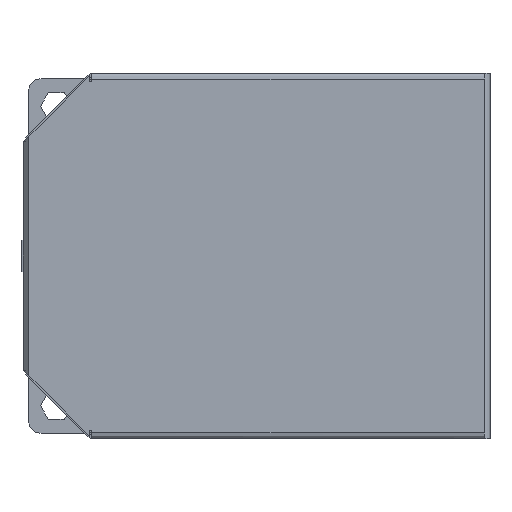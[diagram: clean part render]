
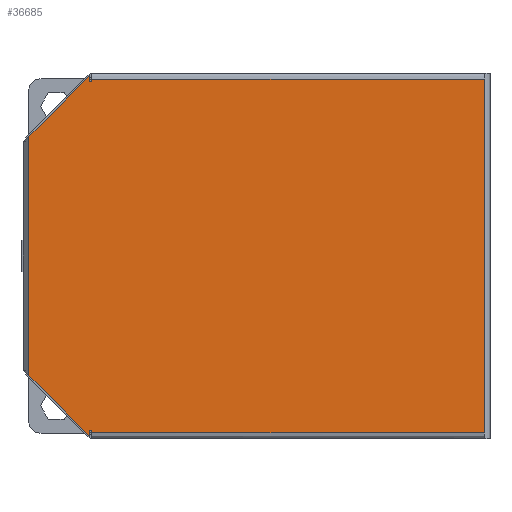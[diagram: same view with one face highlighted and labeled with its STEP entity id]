
A CAD part, front view. The second image highlights one B-rep face of the part: STEP entity #36685.
In plain terms, the highlighted planar face has unit normal (0, -1, 0).
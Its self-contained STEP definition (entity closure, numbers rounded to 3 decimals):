
#310 = EDGE_CURVE ( 'NONE', #28513, #89064, #72159, .T. ) ;
#486 = VERTEX_POINT ( 'NONE', #87829 ) ;
#500 = ORIENTED_EDGE ( 'NONE', *, *, #92525, .F. ) ;
#655 = CARTESIAN_POINT ( 'NONE',  ( 62., -0.8, 56.7 ) ) ;
#1023 = CARTESIAN_POINT ( 'NONE',  ( 71.9, -0.8, 47.7 ) ) ;
#1066 = CARTESIAN_POINT ( 'NONE',  ( 62., -0.8, 57.6 ) ) ;
#2098 = ORIENTED_EDGE ( 'NONE', *, *, #310, .T. ) ;
#2113 = VECTOR ( 'NONE', #28849, 1000. ) ;
#3018 = CARTESIAN_POINT ( 'NONE',  ( 62., -0.8, 57.6 ) ) ;
#4178 = CARTESIAN_POINT ( 'NONE',  ( 31., -0.8, 88.6 ) ) ;
#7187 = CARTESIAN_POINT ( 'NONE',  ( 0., -0.8, 56.3 ) ) ;
#7256 = VECTOR ( 'NONE', #60491, 1000. ) ;
#7549 = DIRECTION ( 'NONE',  ( -1., 0., 0. ) ) ;
#9428 = VERTEX_POINT ( 'NONE', #66450 ) ;
#12902 = CARTESIAN_POINT ( 'NONE',  ( 62.4, -0.8, 57.2 ) ) ;
#14874 = DIRECTION ( 'NONE',  ( 1., 0., 0. ) ) ;
#15550 = VECTOR ( 'NONE', #7549, 1000. ) ;
#15905 = VECTOR ( 'NONE', #49505, 1000. ) ;
#16633 = CARTESIAN_POINT ( 'NONE',  ( 0., -0.8, 57.6 ) ) ;
#17098 = VECTOR ( 'NONE', #72087, 1000. ) ;
#18784 = CARTESIAN_POINT ( 'NONE',  ( 0., -0.8, 1.3 ) ) ;
#19056 = EDGE_CURVE ( 'NONE', #90080, #43641, #43176, .T. ) ;
#20026 = ORIENTED_EDGE ( 'NONE', *, *, #43995, .T. ) ;
#20542 = EDGE_CURVE ( 'NONE', #89064, #43641, #37794, .T. ) ;
#20554 = DIRECTION ( 'NONE',  ( 0., 0., -1. ) ) ;
#21220 = LINE ( 'NONE', #7187, #2113 ) ;
#21736 = CARTESIAN_POINT ( 'NONE',  ( 62.4, -0.8, 1.3 ) ) ;
#22259 = EDGE_CURVE ( 'NONE', #486, #68291, #62931, .T. ) ;
#22333 = ORIENTED_EDGE ( 'NONE', *, *, #19056, .F. ) ;
#22827 = DIRECTION ( 'NONE',  ( -0.707, 0., -0.707 ) ) ;
#23947 = PLANE ( 'NONE',  #26914 ) ;
#25890 = LINE ( 'NONE', #18784, #44941 ) ;
#26914 = AXIS2_PLACEMENT_3D ( 'NONE', #16633, #31111, #81360 ) ;
#28449 = LINE ( 'NONE', #1066, #64360 ) ;
#28513 = VERTEX_POINT ( 'NONE', #82615 ) ;
#28849 = DIRECTION ( 'NONE',  ( 1., 0., 0. ) ) ;
#28900 = ORIENTED_EDGE ( 'NONE', *, *, #31127, .F. ) ;
#29278 = ORIENTED_EDGE ( 'NONE', *, *, #22259, .F. ) ;
#29663 = LINE ( 'NONE', #42175, #84653 ) ;
#29804 = EDGE_CURVE ( 'NONE', #83274, #486, #29663, .T. ) ;
#29939 = EDGE_CURVE ( 'NONE', #9428, #89313, #28449, .T. ) ;
#31111 = DIRECTION ( 'NONE',  ( 0., 1., 0. ) ) ;
#31127 = EDGE_CURVE ( 'NONE', #58972, #90080, #25890, .T. ) ;
#32333 = LINE ( 'NONE', #48996, #49143 ) ;
#34939 = CARTESIAN_POINT ( 'NONE',  ( 62., -0.8, 1.3 ) ) ;
#35254 = VECTOR ( 'NONE', #54702, 1000. ) ;
#36685 = ADVANCED_FACE ( 'NONE', ( #58531 ), #23947, .F. ) ;
#37794 = LINE ( 'NONE', #57937, #75988 ) ;
#39499 = ORIENTED_EDGE ( 'NONE', *, *, #75700, .F. ) ;
#41324 = ORIENTED_EDGE ( 'NONE', *, *, #29939, .F. ) ;
#42175 = CARTESIAN_POINT ( 'NONE',  ( 71.9, -0.8, 57.6 ) ) ;
#43176 = LINE ( 'NONE', #3018, #7256 ) ;
#43641 = VERTEX_POINT ( 'NONE', #44330 ) ;
#43820 = VECTOR ( 'NONE', #22827, 1000. ) ;
#43995 = EDGE_CURVE ( 'NONE', #9428, #28513, #70586, .T. ) ;
#44330 = CARTESIAN_POINT ( 'NONE',  ( 62., -0.8, 0.9 ) ) ;
#44941 = VECTOR ( 'NONE', #61799, 1000. ) ;
#48996 = CARTESIAN_POINT ( 'NONE',  ( 62.4, -0.8, 57.6 ) ) ;
#49143 = VECTOR ( 'NONE', #63443, 1000. ) ;
#49214 = ORIENTED_EDGE ( 'NONE', *, *, #20542, .T. ) ;
#49505 = DIRECTION ( 'NONE',  ( 0., 0., 1. ) ) ;
#51247 = DIRECTION ( 'NONE',  ( 0., 0., -1. ) ) ;
#54702 = DIRECTION ( 'NONE',  ( -0.707, 0., 0.707 ) ) ;
#55464 = EDGE_CURVE ( 'NONE', #87336, #91898, #32333, .T. ) ;
#56640 = LINE ( 'NONE', #4178, #35254 ) ;
#56750 = CARTESIAN_POINT ( 'NONE',  ( 0.1, -0.8, 57.6 ) ) ;
#57937 = CARTESIAN_POINT ( 'NONE',  ( 0.1, -0.8, 0.9 ) ) ;
#58531 = FACE_OUTER_BOUND ( 'NONE', #60153, .T. ) ;
#58972 = VERTEX_POINT ( 'NONE', #21736 ) ;
#59294 = CARTESIAN_POINT ( 'NONE',  ( 62.4, -0.8, 56.3 ) ) ;
#59986 = CARTESIAN_POINT ( 'NONE',  ( 0.1, -0.8, 0.9 ) ) ;
#60153 = EDGE_LOOP ( 'NONE', ( #71789, #39499, #41324, #20026, #2098, #49214, #22333, #28900, #500, #29278, #82946, #92147 ) ) ;
#60491 = DIRECTION ( 'NONE',  ( 0., 0., -1. ) ) ;
#61799 = DIRECTION ( 'NONE',  ( -1., 0., 0. ) ) ;
#62732 = CARTESIAN_POINT ( 'NONE',  ( 62., -0.8, 56.3 ) ) ;
#62931 = LINE ( 'NONE', #87108, #43820 ) ;
#63005 = CARTESIAN_POINT ( 'NONE',  ( 62.4, -0.8, 0.4 ) ) ;
#63443 = DIRECTION ( 'NONE',  ( 0., 0., 1. ) ) ;
#63838 = EDGE_CURVE ( 'NONE', #83274, #91898, #56640, .T. ) ;
#64360 = VECTOR ( 'NONE', #51247, 1000. ) ;
#66450 = CARTESIAN_POINT ( 'NONE',  ( 62., -0.8, 56.7 ) ) ;
#68291 = VERTEX_POINT ( 'NONE', #63005 ) ;
#70586 = LINE ( 'NONE', #655, #15550 ) ;
#71789 = ORIENTED_EDGE ( 'NONE', *, *, #55464, .F. ) ;
#72087 = DIRECTION ( 'NONE',  ( 0., 0., -1. ) ) ;
#72159 = LINE ( 'NONE', #56750, #17098 ) ;
#75700 = EDGE_CURVE ( 'NONE', #89313, #87336, #21220, .T. ) ;
#75988 = VECTOR ( 'NONE', #14874, 1000. ) ;
#77831 = CARTESIAN_POINT ( 'NONE',  ( 62.4, -0.8, 57.6 ) ) ;
#81360 = DIRECTION ( 'NONE',  ( 0., 0., 1. ) ) ;
#82615 = CARTESIAN_POINT ( 'NONE',  ( 0.1, -0.8, 56.7 ) ) ;
#82946 = ORIENTED_EDGE ( 'NONE', *, *, #29804, .F. ) ;
#83274 = VERTEX_POINT ( 'NONE', #1023 ) ;
#84653 = VECTOR ( 'NONE', #20554, 1000. ) ;
#87108 = CARTESIAN_POINT ( 'NONE',  ( 57., -0.8, -5. ) ) ;
#87336 = VERTEX_POINT ( 'NONE', #59294 ) ;
#87829 = CARTESIAN_POINT ( 'NONE',  ( 71.9, -0.8, 9.9 ) ) ;
#89064 = VERTEX_POINT ( 'NONE', #59986 ) ;
#89313 = VERTEX_POINT ( 'NONE', #62732 ) ;
#90078 = LINE ( 'NONE', #77831, #15905 ) ;
#90080 = VERTEX_POINT ( 'NONE', #34939 ) ;
#91898 = VERTEX_POINT ( 'NONE', #12902 ) ;
#92147 = ORIENTED_EDGE ( 'NONE', *, *, #63838, .T. ) ;
#92525 = EDGE_CURVE ( 'NONE', #68291, #58972, #90078, .T. ) ;
